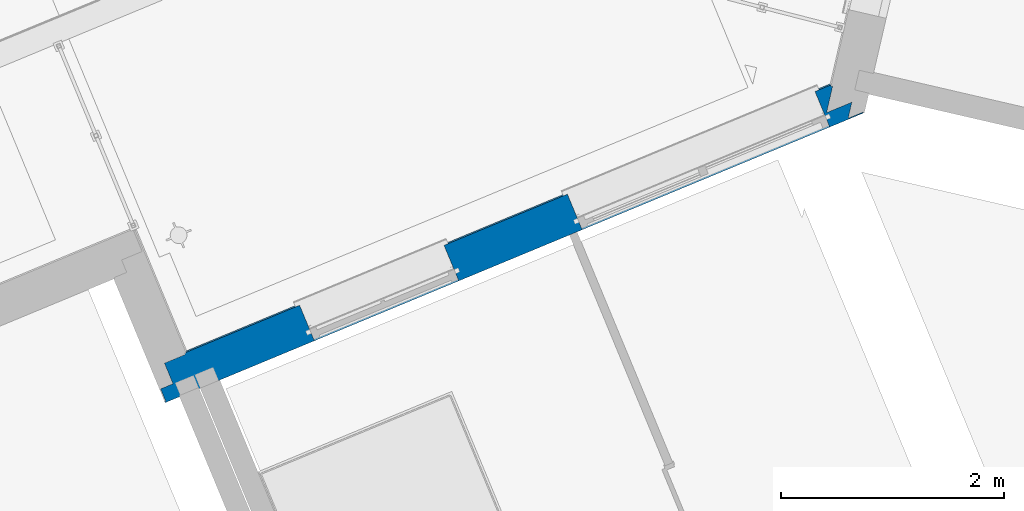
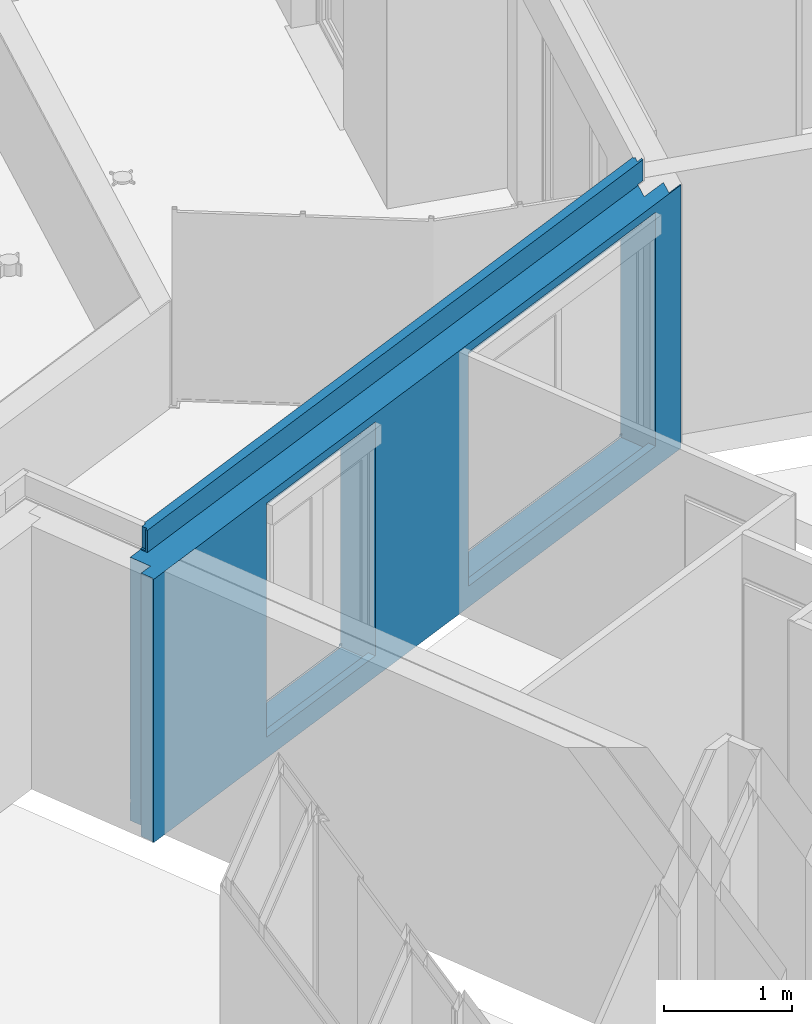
# One storey, part 16 of 119: 1 wall, 2 openings.
"""IFC2X3 building model written with IfcOpenShell, lengths in metres."""

from ifc_helpers import new_model, entity, si_unit, converted_unit, derived_unit, money_unit, direction, frame, origin_with_axes, place, context, subcontext, project, spatial, faceted_brep, material, material_list, type_object, element, save


model = new_model("IFC2X3")

# Units and contexts
model_context = context("Model", 3, precision=1e-05, world=origin_with_axes(), true_north=direction((0.0, 1.0)))
body_context = subcontext(model_context, "Body", "Model", "MODEL_VIEW")
ifc_project = project(units=[si_unit("LENGTHUNIT", "METRE"), si_unit("AREAUNIT", "SQUARE_METRE"), si_unit("VOLUMEUNIT", "CUBIC_METRE"), converted_unit("PLANEANGLEUNIT", "DEGREE", entity("IfcPlaneAngleMeasure", 0.0174532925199), si_unit("PLANEANGLEUNIT", "RADIAN"), dimensions=[0, 0, 0, 0, 0, 0, 0]), si_unit("SOLIDANGLEUNIT", "STERADIAN"), money_unit("EUR"), converted_unit("TIMEUNIT", "Year", entity("IfcTimeMeasure", 31556926.0), si_unit("TIMEUNIT", "SECOND"), dimensions=[0, 0, 1, 0, 0, 0, 0]), si_unit("MASSUNIT", "GRAM", prefix="KILO"), si_unit("THERMODYNAMICTEMPERATUREUNIT", "DEGREE_CELSIUS"), si_unit("LUMINOUSINTENSITYUNIT", "LUMEN"), si_unit("ENERGYUNIT", "JOULE", prefix="MEGA"), derived_unit("THERMALCONDUCTANCEUNIT", [(si_unit("POWERUNIT", "WATT"), 1), (si_unit("LENGTHUNIT", "METRE"), -1), (si_unit("THERMODYNAMICTEMPERATUREUNIT", "KELVIN"), -1)]), derived_unit("SPECIFICHEATCAPACITYUNIT", [(si_unit("ENERGYUNIT", "JOULE"), 1), (si_unit("MASSUNIT", "GRAM", prefix="KILO"), -1), (si_unit("THERMODYNAMICTEMPERATUREUNIT", "KELVIN"), -1)]), derived_unit("MASSDENSITYUNIT", [(si_unit("MASSUNIT", "GRAM", prefix="KILO"), 1), (si_unit("VOLUMEUNIT", "CUBIC_METRE"), -1)])], contexts=[model_context])

# Site, building, storey
site_placement = place(None, origin_with_axes())
site = spatial("IfcSite", under=ifc_project, at=site_placement, Name="Site", CompositionType="ELEMENT")
building_placement = place(site_placement, origin_with_axes())
building = spatial("IfcBuilding", under=site, at=building_placement, Name="Bâtiment", CompositionType="ELEMENT")
storey_placement = place(building_placement, origin_with_axes())
storey = spatial("IfcBuildingStorey", under=building, at=storey_placement, Name="Rez-de-chaussée", CompositionType="ELEMENT", Elevation=0.0)

# Wall, openings
ifc_material_1 = material(Name="Finition int - Plaque de plâtre")
ifc_material_2 = material(Name="Isolation - Polystyrène extrudé")
ifc_material_3 = material(Name="Bloc ELITHERM")
ifc_material_4 = material(Name="Isolation - Polystyrène expansé")
ifc_material_5 = material(Name="Mortier")
ifc_material_6 = material(Name="Béton cellulaire")
ifc_material_7 = material(Name="Etanchéité - Bitume")
ifc_material_8 = material(Name="Finition ext - Crépis")
ifc_material_9 = material(Name="Métal - Aluminium")
ifc_material_list = material_list([ifc_material_1, ifc_material_2, ifc_material_3, ifc_material_4, ifc_material_5, ifc_material_6, ifc_material_7, ifc_material_8, ifc_material_9])
wall_type = type_object("IfcWallType", Name="Mur ALKERN + planelle 21 TERRASSE RDC 356 x 2720", PredefinedType="USERDEFINED")
wall_placement = place(storey_placement, frame((-19.7780456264, -12.7581307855, 0.0), z_axis=(0.0, 0.0, 1.0), x_axis=(-0.923701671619, -0.383112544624, 0.0)))
wall = element("IfcWall", 1, at=wall_placement, inside=storey, type_object=wall_type, material=ifc_material_list, Name="Mue bloc ALKERN isolé", ObjectType="SOLIDWALL", context=body_context, shape_type="Brep", body=[
    faceted_brep([(-0.165315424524, 0.344999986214, 2.50955001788), (6.60230081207, 0.344999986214, 2.50955001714), (6.60230081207, 0.344999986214, 0.0), (-0.165315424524, 0.344999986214, 0.0), (5.15504621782, 0.344999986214, 2.25), (5.15504621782, 0.344999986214, 2.43), (3.75504621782, 0.344999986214, 2.43), (3.75504621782, 0.344999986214, 2.25), (3.75504621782, 0.344999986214, 0.2), (5.15504621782, 0.344999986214, 0.2), (2.55854389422, 0.344999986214, 2.25), (2.55854389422, 0.344999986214, 2.43), (0.158543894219, 0.344999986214, 2.43), (0.158543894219, 0.344999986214, 2.25), (0.158543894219, 0.344999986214, 0.2), (2.55854389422, 0.344999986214, 0.2), (-0.17245418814, 0.335000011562, 2.50955001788), (6.60230081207, 0.335000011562, 2.50955001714), (6.60230081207, 0.335000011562, 0.0), (-0.17245418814, 0.335000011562, 0.0), (5.15504621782, 0.335000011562, 2.25), (5.15504621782, 0.335000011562, 2.43), (3.75504621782, 0.335000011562, 2.43), (3.75504621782, 0.335000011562, 2.25), (3.75504621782, 0.335000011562, 0.2), (5.15504621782, 0.335000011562, 0.2), (2.55854389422, 0.335000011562, 2.25), (2.55854389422, 0.335000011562, 2.43), (0.158543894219, 0.335000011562, 2.43), (0.158543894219, 0.335000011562, 2.25), (0.158543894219, 0.335000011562, 0.2), (2.55854389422, 0.335000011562, 0.2)], [[[0, 1, 2, 3], [4, 5, 6, 7, 8, 9], [10, 11, 12, 13, 14, 15]], [[1, 0, 16, 17]], [[17, 18, 2, 1]], [[18, 19, 3, 2]], [[19, 16, 0, 3]], [[20, 21, 5, 4]], [[21, 22, 6, 5]], [[22, 23, 7, 6]], [[24, 8, 7, 23]], [[25, 9, 8, 24]], [[9, 25, 20, 4]], [[11, 10, 26, 27]], [[12, 11, 27, 28]], [[13, 12, 28, 29]], [[13, 29, 30, 14]], [[14, 30, 31, 15]], [[26, 10, 15, 31]], [[17, 16, 19, 18], [21, 20, 25, 24, 23, 22], [27, 26, 31, 30, 29, 28]]]),
    faceted_brep([(0.158543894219, 0.21499997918, 0.2), (0.158543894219, 0.21499997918, 0.14), (0.158543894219, 0.274560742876, 0.14), (0.158543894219, 0.274560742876, 0.2), (0.158543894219, 0.335000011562, 0.2), (0.158543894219, 0.335000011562, 2.25), (0.158543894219, 0.335000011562, 2.43), (0.158543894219, 0.21499997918, 2.43), (0.158543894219, 0.21499997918, 2.25), (6.59230081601, 0.21499997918, 2.50955001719), (-0.110679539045, 0.21499997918, 2.50955001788), (-0.110679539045, 0.21499997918, 0.0), (6.59230081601, 0.21499997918, 0.0), (5.15504621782, 0.21499997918, 2.43), (5.15504621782, 0.21499997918, 2.25), (5.15504621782, 0.21499997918, 0.2), (5.15504621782, 0.21499997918, 0.14), (3.75504621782, 0.21499997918, 0.14), (3.75504621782, 0.21499997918, 0.2), (3.75504621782, 0.21499997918, 2.25), (3.75504621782, 0.21499997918, 2.43), (2.55854389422, 0.21499997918, 2.43), (2.55854389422, 0.21499997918, 2.25), (2.55854389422, 0.21499997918, 0.2), (2.55854389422, 0.21499997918, 0.14), (2.55854389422, 0.274560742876, 0.14), (2.55854389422, 0.274560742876, 0.2), (2.55854389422, 0.335000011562, 0.2), (-0.02501413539, 0.335000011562, 2.50955001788), (6.59230081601, 0.335000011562, 2.50955001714), (6.59230081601, 0.335000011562, 0.0), (-0.02501413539, 0.335000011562, 0.0), (3.75504621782, 0.335000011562, 2.25), (3.75504621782, 0.335000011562, 0.2), (5.15504621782, 0.335000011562, 0.2), (5.15504621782, 0.335000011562, 2.25), (5.15504621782, 0.335000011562, 2.43), (3.75504621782, 0.335000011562, 2.43), (2.55854389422, 0.335000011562, 2.25), (2.55854389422, 0.335000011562, 2.43), (5.15504621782, 0.274560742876, 0.2), (5.15504621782, 0.274560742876, 0.14), (3.75504621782, 0.274560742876, 0.14), (3.75504621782, 0.274560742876, 0.2)], [[[0, 1, 2, 3, 4, 5, 6, 7, 8]], [[9, 10, 11, 12], [13, 14, 15, 16, 17, 18, 19, 20], [1, 0, 8, 7, 21, 22, 23, 24]], [[1, 24, 25, 2]], [[26, 3, 2, 25]], [[3, 26, 27, 4]], [[28, 29, 30, 31], [32, 33, 34, 35, 36, 37], [5, 4, 27, 38, 39, 6]], [[39, 21, 7, 6]], [[10, 9, 29, 28]], [[11, 10, 28, 31]], [[31, 30, 12, 11]], [[30, 29, 9, 12]], [[36, 35, 34, 40, 41, 16, 15, 14, 13]], [[17, 16, 41, 42]], [[37, 20, 19, 18, 17, 42, 43, 33, 32]], [[36, 13, 20, 37]], [[26, 25, 24, 23, 22, 21, 39, 38, 27]], [[43, 40, 34, 33]], [[40, 43, 42, 41]]]),
    faceted_brep([(0.158543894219, 0.0160453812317, 0.2), (0.158543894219, 0.0160453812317, 0.16972779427), (0.158543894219, 0.015, 0.169414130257), (0.158543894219, 0.0150000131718, 0.160000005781), (0.158543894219, 0.0150000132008, 0.14), (0.158543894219, 0.214999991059, 0.14), (0.158543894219, 0.214999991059, 0.2), (0.158543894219, 0.214999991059, 2.25), (0.158543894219, 0.214999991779, 2.43), (0.158543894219, 0.203560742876, 2.43), (0.158543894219, 0.203560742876, 2.25), (0.158543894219, 0.015, 2.25), (0.158543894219, 0.015, 0.207793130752), (0.158543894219, 0.0160453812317, 0.207793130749), (-0.00697555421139, 0.0160453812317, 0.207793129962), (-0.0082599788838, 0.0160453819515, 0.207793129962), (-0.00825997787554, 0.0160453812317, 0.169727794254), (-0.00772182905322, 0.015, 0.169414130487), (-0.00772183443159, 0.0150000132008, 0.160000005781), (-0.00772182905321, 0.015, 0.0), (6.47230078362, 0.015, 0.0), (6.47230078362, 0.01500001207, 0.160000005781), (5.15504621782, 0.0150000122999, 0.160000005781), (5.15504621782, 0.0150000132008, 0.14), (3.75504621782, 0.0150000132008, 0.14), (3.75504621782, 0.0150000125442, 0.160000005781), (2.55854389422, 0.015000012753, 0.160000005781), (2.55854389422, 0.0150000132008, 0.14), (2.55854389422, 0.214999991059, 0.14), (6.47230078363, 0.214999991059, 2.50955001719), (6.47230078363, 0.214999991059, 0.0), (0.135053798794, 0.214999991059, 0.0), (0.135053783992, 0.214999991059, 0.160000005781), (0.135053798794, 0.214999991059, 0.169414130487), (0.13376937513, 0.214999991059, 0.169727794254), (0.133769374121, 0.214999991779, 0.207793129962), (0.135053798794, 0.214999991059, 0.207793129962), (0.135053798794, 0.214999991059, 2.50955001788), (3.75504621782, 0.214999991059, 0.14), (5.15504621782, 0.214999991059, 0.14), (5.15504621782, 0.214999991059, 0.2), (5.15504621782, 0.214999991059, 2.25), (5.15504621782, 0.214999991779, 2.43), (3.75504621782, 0.214999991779, 2.43), (3.75504621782, 0.214999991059, 2.25), (3.75504621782, 0.214999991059, 0.2), (2.55854389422, 0.214999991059, 0.2), (2.55854389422, 0.214999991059, 2.25), (2.55854389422, 0.214999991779, 2.43), (2.55854389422, 0.203560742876, 2.43), (2.55854389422, 0.203560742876, 2.25), (2.55854389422, 0.015, 2.25), (6.47230078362, 0.015, 0.207793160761), (6.47230078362, 0.015, 2.50955001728), (-0.00772182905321, 0.015, 2.50955001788), (-0.00772182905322, 0.015, 0.207793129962), (2.55854389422, 0.015, 0.207793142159), (3.75504621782, 0.015, 0.207793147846), (3.75504621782, 0.015, 2.25), (5.15504621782, 0.015, 2.25), (5.15504621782, 0.015, 0.2077931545), (6.47230078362, 0.0160453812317, 0.207793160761), (6.47230078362, 0.0160453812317, 0.169727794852), (6.47230078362, 0.015, 0.169414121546), (6.47230078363, 0.0829999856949, 2.50955001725), (5.15504621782, 0.015, 0.169414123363), (5.15504621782, 0.0160453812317, 0.169727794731), (5.15504621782, 0.0160453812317, 0.2), (5.15504621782, 0.0160453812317, 0.207793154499), (5.15504621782, 0.203560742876, 2.25), (5.15504621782, 0.203560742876, 2.43), (3.75504621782, 0.203560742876, 2.43), (3.75504621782, 0.203560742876, 2.25), (3.75504621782, 0.0160453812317, 0.207793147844), (3.75504621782, 0.0160453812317, 0.2), (3.75504621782, 0.0160453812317, 0.169727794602), (3.75504621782, 0.015, 0.169414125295), (2.55854389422, 0.015, 0.169414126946), (2.55854389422, 0.0160453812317, 0.169727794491), (2.55854389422, 0.0160453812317, 0.2), (2.55854389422, 0.0160453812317, 0.207793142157), (0.0408218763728, 0.0829999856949, 2.50955001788)], [[[0, 1, 2, 3, 4, 5, 6, 7, 8, 9, 10, 11, 12, 13]], [[1, 0, 13, 14, 15, 16]], [[2, 1, 16, 17]], [[3, 2, 17, 18]], [[4, 3, 18, 19, 20, 21, 22, 23, 24, 25, 26, 27]], [[28, 5, 4, 27]], [[29, 30, 31, 32, 33, 34, 35, 36, 37], [38, 39, 40, 41, 42, 43, 44, 45], [28, 46, 47, 48, 8, 7, 6, 5]], [[48, 49, 9, 8]], [[10, 9, 49, 50]], [[50, 51, 11, 10]], [[52, 53, 54, 55, 12, 11, 51, 56, 57, 58, 59, 60]], [[55, 14, 13, 12]], [[35, 15, 14, 36]], [[16, 15, 35, 34]], [[34, 33, 17, 16]], [[32, 18, 17, 33]], [[18, 32, 31, 19]], [[20, 19, 31, 30]], [[53, 52, 61, 62, 63, 21, 20, 30, 29, 64]], [[63, 65, 22, 21]], [[66, 67, 68, 60, 59, 69, 70, 42, 41, 40, 39, 23, 22, 65]], [[23, 39, 38, 24]], [[38, 45, 44, 43, 71, 72, 58, 57, 73, 74, 75, 76, 25, 24]], [[77, 26, 25, 76]], [[46, 28, 27, 26, 77, 78, 79, 80, 56, 51, 50, 49, 48, 47]], [[36, 14, 55, 54, 81, 37]], [[37, 81, 64, 29]], [[43, 42, 70, 71]], [[81, 54, 53, 64]], [[73, 57, 56, 80]], [[72, 69, 59, 58]], [[68, 61, 52, 60]], [[66, 62, 61, 68, 67]], [[62, 66, 65, 63]], [[69, 72, 71, 70]], [[79, 78, 75, 74, 73, 80]], [[78, 77, 76, 75]]]),
    faceted_brep([(6.34030081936, 0.0630000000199, 2.71999999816), (6.34030081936, 0.0830000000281, 2.71999999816), (-0.0181541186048, 0.0830000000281, 2.72), (-0.0324316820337, 0.0630000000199, 2.72), (6.34030081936, 0.0630000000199, 2.51999998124), (6.34030081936, 0.0830000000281, 2.51999998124), (-0.0181541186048, 0.0830000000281, 2.51999999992), (-0.0324316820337, 0.0630000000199, 2.51999999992)], [[[0, 1, 2, 3]], [[1, 0, 4, 5]], [[1, 5, 6, 2]], [[2, 6, 7, 3]], [[4, 0, 3, 7]], [[5, 4, 7, 6]]]),
    faceted_brep([(0.0408218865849, 0.083, 2.52), (-0.00772182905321, 0.015, 2.52), (6.34030081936, 0.015, 2.51999998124), (6.34030081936, 0.083, 2.51999998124), (-0.00772182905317, 0.0150000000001, 2.50955), (0.0408218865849, 0.0830000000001, 2.50955), (6.34030078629, 0.015, 2.50955001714), (6.34030078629, 0.015, 2.51), (6.34030078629, 0.083, 2.51), (6.34030078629, 0.083, 2.50955001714)], [[[0, 1, 2, 3]], [[4, 1, 0, 5]], [[1, 4, 6, 7, 2]], [[2, 7, 8, 3]], [[5, 0, 3, 8, 9]], [[4, 5, 9, 6]], [[6, 9, 8, 7]]]),
    faceted_brep([(6.32030080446, 0.015, 2.71999999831), (6.32030080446, 0.0630000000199, 2.71999999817), (0.0265443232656, 0.0630000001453, 2.72), (-0.00772182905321, 0.015, 2.72), (6.32030080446, 0.0630000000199, 2.51999998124), (6.32030080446, 0.015, 2.5199999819), (0.0265443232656, 0.0630000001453, 2.51999999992), (-0.00772182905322, 0.015, 2.51999999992)], [[[0, 1, 2, 3]], [[4, 1, 0, 5]], [[1, 4, 6, 2]], [[7, 3, 2, 6]], [[5, 0, 3, 7]], [[4, 5, 7, 6]]]),
    faceted_brep([(0.158543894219, 0.00500000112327, 0.160000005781), (0.158543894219, 0.0150000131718, 0.160000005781), (0.004564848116, 0.0150000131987, 0.160000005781), (-0.00257394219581, 0.00500000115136, 0.160000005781), (0.158543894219, 0.015, 0.14), (0.158543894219, 0.005, 0.14), (2.55854389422, 0.015, 0.14), (2.55854389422, 0.015000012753, 0.160000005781), (3.75504621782, 0.0150000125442, 0.160000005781), (3.75504621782, 0.015, 0.14), (5.15504621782, 0.015, 0.14), (5.15504621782, 0.0150000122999, 0.160000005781), (6.27230081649, 0.0150000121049, 0.160000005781), (6.27230080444, 0.0150000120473, 0.0), (6.2623008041, 0.015, 0.0), (6.2623008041, 0.015, 0.01), (0.00456484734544, 0.015, 0.01), (-0.00257394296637, 0.00500000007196, 0.01), (6.26238413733, 0.005, 0.01), (6.26238413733, 0.005, 0.0), (6.27230080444, 0.005, 0.0), (6.27230081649, 0.00500000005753, 0.160000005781), (5.15504621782, 0.00500000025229, 0.160000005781), (5.15504621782, 0.005, 0.14), (3.75504621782, 0.005, 0.14), (3.75504621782, 0.00500000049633, 0.160000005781), (2.55854389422, 0.00500000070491, 0.160000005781), (2.55854389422, 0.005, 0.14)], [[[0, 1, 2, 3]], [[4, 1, 0, 5]], [[6, 7, 8, 9, 10, 11, 12, 13, 14, 15, 16, 2, 1, 4]], [[3, 2, 16, 17]], [[5, 0, 3, 17, 18, 19, 20, 21, 22, 23, 24, 25, 26, 27]], [[6, 4, 5, 27]], [[26, 7, 6, 27]], [[7, 26, 25, 8]], [[8, 25, 24, 9]], [[9, 24, 23, 10]], [[11, 10, 23, 22]], [[22, 21, 12, 11]], [[21, 20, 13, 12]], [[13, 20, 19, 14]], [[19, 18, 15, 14]], [[16, 15, 18, 17]]]),
    faceted_brep([(0.158543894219, 0.0150000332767, 0.2), (0.158543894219, 0.0150000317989, 0.17653233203), (0.01070819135, 0.0150000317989, 0.176532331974), (0.0107081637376, 0.0149999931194, 2.72), (6.27230080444, 0.015, 2.71999999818), (6.27230080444, 0.0150000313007, 0.207793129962), (6.27230083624, 0.0150000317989, 0.17653233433), (5.15504621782, 0.0150000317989, 0.176532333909), (5.15504621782, 0.0150000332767, 0.2), (5.15504621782, 0.0150000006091, 2.25), (3.75504621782, 0.0150000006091, 2.25), (3.75504621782, 0.0150000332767, 0.2), (3.75504621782, 0.0150000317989, 0.176532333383), (2.55854389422, 0.0150000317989, 0.176532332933), (2.55854389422, 0.0150000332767, 0.2), (2.55854389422, 0.0150000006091, 2.25), (0.158543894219, 0.0150000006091, 2.25), (0.158543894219, 2.81465428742e-09, 0.2), (0.158543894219, 3.18862092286e-09, 0.176532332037), (0.158543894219, -2.98529352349e-08, 2.25), (-1.64146385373e-09, 3.18862003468e-09, 0.176532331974), (-3.19538173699e-10, 5.0403752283e-09, 2.72), (6.27230080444, 3.20847615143e-09, 2.71999999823), (6.27230080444, 2.69046207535e-09, 0.207793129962), (6.27230083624, 3.18861648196e-09, 0.176532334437), (5.15504621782, 3.18861825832e-09, 0.176532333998), (5.15504621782, 4.33657083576e-08, 0.2), (5.15504621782, 1.06981188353e-08, 2.25), (3.75504621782, 1.06981206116e-08, 2.25), (3.75504621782, 4.33657065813e-08, 0.2), (3.75504621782, 3.18861825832e-09, 0.176532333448), (2.55854389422, 3.18862003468e-09, 0.176532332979), (2.55854389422, 2.81465251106e-09, 0.2), (2.55854389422, -2.98529370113e-08, 2.25)], [[[0, 1, 2, 3, 4, 5, 6, 7, 8, 9, 10, 11, 12, 13, 14, 15, 16]], [[17, 18, 1, 0, 16, 19]], [[1, 18, 20, 2]], [[20, 21, 3, 2]], [[21, 22, 4, 3]], [[5, 4, 22, 23]], [[6, 5, 23, 24]], [[6, 24, 25, 7]], [[8, 7, 25, 26, 27, 9]], [[28, 10, 9, 27]], [[29, 30, 12, 11, 10, 28]], [[31, 13, 12, 30]], [[14, 13, 31, 32, 33, 15]], [[15, 33, 19, 16]], [[18, 17, 19, 33, 32, 31, 30, 29, 28, 27, 26, 25, 24, 23, 22, 21, 20]]]),
    faceted_brep([(0.158543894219, 0.0150000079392, 0.2), (0.158543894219, 0.0160453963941, 0.2), (0.158543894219, 0.0160453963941, 0.207793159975), (0.158543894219, 0.015, 0.207793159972), (0.158543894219, 0.0160454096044, 0.169727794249), (0.158543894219, 0.0150000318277, 0.176532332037), (0.158543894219, 0.0150000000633, 0.170774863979), (0.158543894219, -0.0114392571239, 0.162931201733), (0.158543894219, -0.0114392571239, 0.14), (0.158543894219, -0.0102051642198, 0.14), (0.158543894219, -0.010205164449, 0.161852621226), (0.158543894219, 0.0150000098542, 0.169414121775), (-0.00263902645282, 0.0160454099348, 0.169727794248), (-0.00697554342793, 0.0160453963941, 0.17077486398), (-0.00697558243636, 0.0160453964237, 0.176532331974), (-0.00697554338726, 0.0160453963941, 0.207793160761), (-0.00772182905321, 0.015, 0.207793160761), (-0.00772184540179, 0.0150000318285, 0.176532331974), (-0.0077218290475, 0.015000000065, 0.17077486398), (-0.00536061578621, 0.0104132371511, 0.169414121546), (0.00588879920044, -0.0114392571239, 0.162931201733), (0.00588879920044, -0.0114392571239, 0.160000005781), (0.00588879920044, -0.0114392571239, 0.133633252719), (6.2470956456, -0.0114392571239, 0.13363326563), (6.24709564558, -0.0114392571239, 0.160000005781), (6.24709564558, -0.0114392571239, 0.161852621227), (6.25069093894, -0.0114392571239, 0.162931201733), (5.15504621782, -0.0114392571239, 0.162931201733), (5.15504621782, -0.0114392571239, 0.14), (3.75504621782, -0.0114392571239, 0.14), (3.75504621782, -0.0114392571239, 0.162931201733), (2.55854389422, -0.0114392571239, 0.162931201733), (2.55854389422, -0.0114392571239, 0.14), (2.55854389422, -0.0102051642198, 0.14), (2.55854389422, -0.0102051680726, 0.161852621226), (3.75504621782, -0.0102051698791, 0.161852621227), (3.75504621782, -0.0102051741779, 0.14), (5.15504621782, -0.0102051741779, 0.14), (5.15504621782, -0.0102051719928, 0.161852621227), (6.24709564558, -0.0102051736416, 0.161852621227), (6.24709564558, -0.0102051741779, 0.160000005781), (6.2470956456, -0.0102051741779, 0.133633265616), (0.00676978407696, -0.0102051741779, 0.133633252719), (0.00676978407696, -0.0102051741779, 0.160000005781), (0.00676979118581, -0.0102051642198, 0.161852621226), (0.00933639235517, -0.00660987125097, 0.162931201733), (-0.0020862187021, 0.0150000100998, 0.169414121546), (6.27230080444, 0.010413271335, 0.169414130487), (6.27230080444, 0.0150000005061, 0.169414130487), (5.15504621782, 0.0150000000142, 0.170774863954), (6.27334618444, 0.0114705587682, 0.169727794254), (6.27334618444, 0.0150000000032, 0.170774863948), (5.15504621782, 0.0150000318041, 0.17653233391), (5.15504621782, 0.0150000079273, 0.2), (5.15504621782, 0.0160453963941, 0.2), (5.15504621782, 0.0160453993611, 0.169727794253), (5.15504621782, 0.0150000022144, 0.169414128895), (3.75504621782, 0.015000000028, 0.170774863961), (3.75504621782, 0.015000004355, 0.1694141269), (3.75504621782, 0.0160454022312, 0.169727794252), (3.75504621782, 0.0160453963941, 0.2), (3.75504621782, 0.0150000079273, 0.2), (3.75504621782, 0.0150000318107, 0.176532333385), (2.55854389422, 0.0150000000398, 0.170774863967), (2.55854389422, 0.0150000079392, 0.2), (2.55854389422, 0.0160453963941, 0.2), (2.55854389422, 0.0160454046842, 0.169727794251), (2.55854389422, 0.0150000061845, 0.169414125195), (2.55854389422, 0.0150000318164, 0.176532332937), (6.27334618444, 0.0160453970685, 0.169727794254), (6.27334618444, 0.0160453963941, 0.176532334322), (6.27334618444, 0.0150000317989, 0.17653233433), (5.15504621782, 0.015, 0.207793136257), (6.27334618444, 0.015, 0.207793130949), (5.15504621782, 0.0160453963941, 0.207793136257), (6.27334618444, 0.0160453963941, 0.207793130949), (2.55854389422, 0.0160453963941, 0.207793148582), (3.75504621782, 0.0160453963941, 0.207793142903), (3.75504621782, 0.015, 0.207793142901), (2.55854389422, 0.015, 0.20779314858)], [[[0, 1, 2, 3]], [[4, 1, 0, 5, 6, 7, 8, 9, 10, 11]], [[1, 4, 12, 13, 14, 15, 2]], [[2, 15, 16, 3]], [[5, 0, 3, 16, 17]], [[6, 5, 17, 18]], [[7, 6, 18, 19, 20]], [[8, 7, 20, 21, 22, 23, 24, 25, 26, 27, 28, 29, 30, 31, 32]], [[33, 9, 8, 32]], [[33, 34, 35, 36, 37, 38, 39, 40, 41, 42, 43, 44, 10, 9]], [[11, 10, 44, 45, 46]], [[4, 11, 46, 12]], [[12, 46, 19, 18, 13]], [[14, 13, 18, 17]], [[16, 15, 14, 17]], [[45, 20, 19, 46]], [[21, 20, 45, 44, 43]], [[42, 22, 21, 43]], [[23, 22, 42, 41]], [[23, 41, 40, 24]], [[25, 24, 40, 39]], [[47, 26, 25, 39, 48]], [[49, 27, 26, 47, 50, 51]], [[38, 37, 28, 27, 49, 52, 53, 54, 55, 56]], [[29, 28, 37, 36]], [[57, 30, 29, 36, 35, 58, 59, 60, 61, 62]], [[63, 31, 30, 57]], [[64, 65, 66, 67, 34, 33, 32, 31, 63, 68]], [[34, 67, 58, 35]], [[48, 39, 38, 56]], [[48, 69, 50, 47]], [[50, 69, 70, 71, 51]], [[51, 71, 52, 49]], [[72, 53, 52, 71, 73]], [[72, 74, 54, 53]], [[55, 54, 74, 75, 70, 69]], [[69, 48, 56, 55]], [[67, 66, 59, 58]], [[66, 65, 76, 77, 60, 59]], [[77, 78, 61, 60]], [[64, 68, 62, 61, 78, 79]], [[68, 63, 57, 62]], [[65, 64, 79, 76]], [[70, 75, 73, 71]], [[75, 74, 72, 73]], [[79, 78, 77, 76]]]),
])
opening_1_placement = place(wall_placement, frame((4.45504621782, 0.0, 0.2), z_axis=(0.0, 0.0, 1.0), x_axis=(1.0, 0.0, 0.0)))
element("IfcOpeningElement", 2, at=opening_1_placement, cuts=wall, Name="MEN 19", context=body_context, shape_type="Brep", body=[
    faceted_brep([(0.7, 0.233560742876, 0.0), (-0.7, 0.233560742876, 0.0), (-0.7, 0.834999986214, 0.0), (0.7, 0.834999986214, 0.0), (0.7, 0.233560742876, 2.05), (-0.7, 0.233560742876, 2.05), (-0.7, 0.834999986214, 2.05), (0.7, 0.834999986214, 2.05)], [[[0, 1, 2, 3]], [[0, 4, 5, 1]], [[1, 5, 6, 2]], [[3, 2, 6, 7]], [[4, 0, 3, 7]], [[5, 4, 7, 6]]]),
    faceted_brep([(0.7, 0.233560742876, 0.0), (0.7, 0.233560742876, 2.05), (0.7, -0.367878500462, 2.05), (0.7, -0.367878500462, 0.0), (-0.7, 0.233560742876, 0.0), (-0.7, 0.233560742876, 2.05), (-0.7, -0.367878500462, 2.05), (-0.7, -0.367878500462, 0.0)], [[[0, 1, 2, 3]], [[0, 4, 5, 1]], [[1, 5, 6, 2]], [[3, 2, 6, 7]], [[4, 0, 3, 7]], [[5, 4, 7, 6]]]),
    faceted_brep([(0.7, 0.233560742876, 0.0), (0.7, 0.233560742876, 2.05), (0.7, -0.367878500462, 2.05), (0.7, -0.367878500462, 0.0), (-0.7, 0.233560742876, 0.0), (-0.7, 0.233560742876, 2.05), (-0.7, -0.367878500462, 2.05), (-0.7, -0.367878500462, 0.0)], [[[0, 1, 2, 3]], [[0, 4, 5, 1]], [[1, 5, 6, 2]], [[3, 2, 6, 7]], [[4, 0, 3, 7]], [[5, 4, 7, 6]]]),
    faceted_brep([(0.7, 0.203560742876, 2.05), (-0.7, 0.203560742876, 2.05), (-0.7, 0.804999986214, 2.05), (0.7, 0.804999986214, 2.05), (0.7, 0.203560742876, 2.23), (-0.7, 0.203560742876, 2.23), (-0.7, 0.804999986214, 2.23), (0.7, 0.804999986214, 2.23)], [[[0, 1, 2, 3]], [[0, 4, 5, 1]], [[1, 5, 6, 2]], [[3, 2, 6, 7]], [[4, 0, 3, 7]], [[5, 4, 7, 6]]]),
    faceted_brep([(0.7, 0.274560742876, 0.0), (-0.7, 0.274560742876, 0.0), (-0.7, -0.326878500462, 0.0), (0.7, -0.326878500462, 0.0), (0.7, 0.274560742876, -0.06), (-0.7, 0.274560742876, -0.06), (-0.7, -0.326878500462, -0.06), (0.7, -0.326878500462, -0.06)], [[[0, 1, 2, 3]], [[0, 4, 5, 1]], [[1, 5, 6, 2]], [[3, 2, 6, 7]], [[4, 0, 3, 7]], [[5, 4, 7, 6]]]),
])
opening_2_placement = place(wall_placement, frame((1.35854389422, 0.0, 0.2), z_axis=(0.0, 0.0, 1.0), x_axis=(1.0, 0.0, 0.0)))
element("IfcOpeningElement", 3, at=opening_2_placement, cuts=wall, Name="MEN 18", context=body_context, shape_type="Brep", body=[
    faceted_brep([(-1.2, 0.834999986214, 0.0), (1.2, 0.834999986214, 0.0), (1.2, 0.233560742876, 0.0), (-1.2, 0.233560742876, 0.0), (-1.2, 0.834999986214, 2.05), (1.2, 0.834999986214, 2.05), (1.2, 0.233560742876, 2.05), (-1.2, 0.233560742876, 2.05)], [[[0, 1, 2, 3]], [[0, 4, 5, 1]], [[1, 5, 6, 2]], [[3, 2, 6, 7]], [[4, 0, 3, 7]], [[5, 4, 7, 6]]]),
    faceted_brep([(-1.2, -0.367878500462, 0.0), (-1.2, -0.367878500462, 2.05), (-1.2, 0.233560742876, 2.05), (-1.2, 0.233560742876, 0.0), (1.2, -0.367878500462, 0.0), (1.2, -0.367878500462, 2.05), (1.2, 0.233560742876, 2.05), (1.2, 0.233560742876, 0.0)], [[[0, 1, 2, 3]], [[0, 4, 5, 1]], [[1, 5, 6, 2]], [[3, 2, 6, 7]], [[4, 0, 3, 7]], [[5, 4, 7, 6]]]),
    faceted_brep([(-1.2, -0.367878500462, 0.0), (-1.2, -0.367878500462, 2.05), (-1.2, 0.233560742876, 2.05), (-1.2, 0.233560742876, 0.0), (1.2, -0.367878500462, 0.0), (1.2, -0.367878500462, 2.05), (1.2, 0.233560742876, 2.05), (1.2, 0.233560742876, 0.0)], [[[0, 1, 2, 3]], [[0, 4, 5, 1]], [[1, 5, 6, 2]], [[3, 2, 6, 7]], [[4, 0, 3, 7]], [[5, 4, 7, 6]]]),
    faceted_brep([(-1.2, 0.804999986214, 2.05), (1.2, 0.804999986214, 2.05), (1.2, 0.203560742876, 2.05), (-1.2, 0.203560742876, 2.05), (-1.2, 0.804999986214, 2.23), (1.2, 0.804999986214, 2.23), (1.2, 0.203560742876, 2.23), (-1.2, 0.203560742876, 2.23)], [[[0, 1, 2, 3]], [[0, 4, 5, 1]], [[1, 5, 6, 2]], [[3, 2, 6, 7]], [[4, 0, 3, 7]], [[5, 4, 7, 6]]]),
    faceted_brep([(-1.2, -0.326878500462, 0.0), (1.2, -0.326878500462, 0.0), (1.2, 0.274560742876, 0.0), (-1.2, 0.274560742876, 0.0), (-1.2, -0.326878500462, -0.06), (1.2, -0.326878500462, -0.06), (1.2, 0.274560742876, -0.06), (-1.2, 0.274560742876, -0.06)], [[[0, 1, 2, 3]], [[0, 4, 5, 1]], [[1, 5, 6, 2]], [[3, 2, 6, 7]], [[4, 0, 3, 7]], [[5, 4, 7, 6]]]),
])

save(model, "model.ifc")
